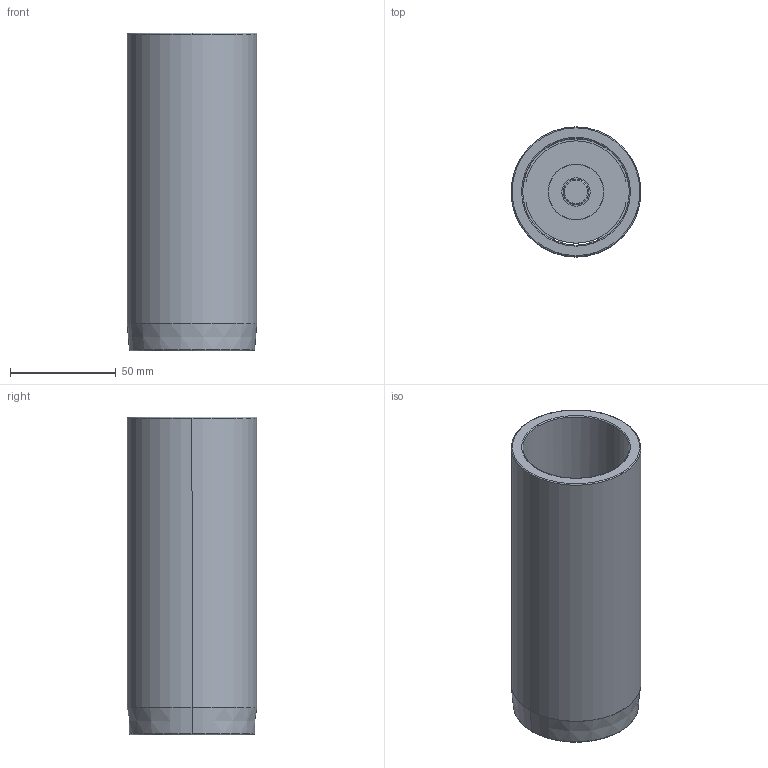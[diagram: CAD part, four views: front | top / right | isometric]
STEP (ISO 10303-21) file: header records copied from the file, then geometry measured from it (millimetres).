
FILE_DESCRIPTION((''),'2;1');
FILE_NAME('C12_050_150.stp','2009-01-28T14:17:19',(''),(''),'Mechanical Desktop 2009','Mechanical Desktop 2009',', , ');
FILE_SCHEMA(('CONFIG_CONTROL_DESIGN'));
Length unit declared in the file: millimetre
Products named in the file (2): Product; blmdl1
Assembly tree (1 placements, depth 2):
  Product
    blmdl1
Bounding box: 61.25 x 61.25 x 150 mm (x, y, z)
Volume: 149298.5 mm3; surface area: 64278.6 mm2
Topology: 5 solids, 5 shells, 79 faces, 200 edges, 134 vertices
Faces by surface type: cylinder 34, plane 29, torus 10, cone 6
Entity records: 2585 total; most frequent: DIRECTION 480, CARTESIAN_POINT 435, ORIENTED_EDGE 400, AXIS2_PLACEMENT_3D 203, EDGE_CURVE 200, VERTEX_POINT 134, CIRCLE 122, EDGE_LOOP 92
